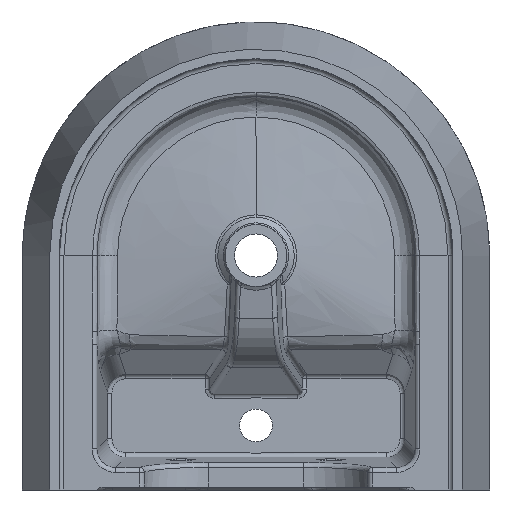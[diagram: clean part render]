
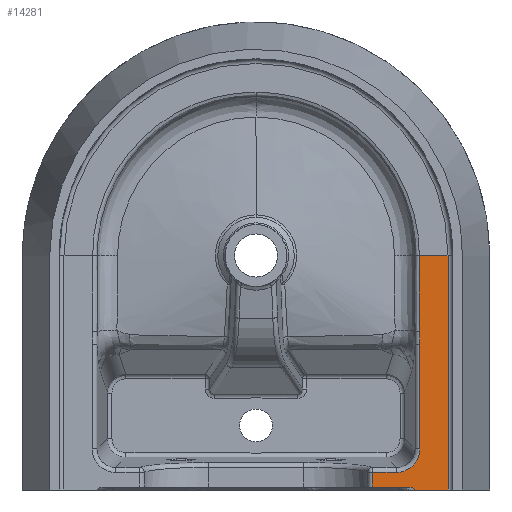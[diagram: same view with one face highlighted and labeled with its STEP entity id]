
A CAD part, front view. The second image highlights one B-rep face of the part: STEP entity #14281.
In plain terms, the highlighted planar face has unit normal (0, -1, 0).
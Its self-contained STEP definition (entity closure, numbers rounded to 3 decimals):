
#43 = EDGE_CURVE ( 'NONE', #14842, #15771, #1753, .T. ) ;
#699 = VECTOR ( 'NONE', #7197, 1000. ) ;
#1031 = CARTESIAN_POINT ( 'NONE',  ( 170., -145., -250. ) ) ;
#1102 = EDGE_CURVE ( 'NONE', #3269, #9192, #3864, .T. ) ;
#1420 = CARTESIAN_POINT ( 'NONE',  ( 174.223, -145., -67.517 ) ) ;
#1471 = EDGE_LOOP ( 'NONE', ( #5574, #7557, #4734, #12234, #10234, #2664, #3962, #6370, #8256, #8138, #7528, #8860 ) ) ;
#1678 = EDGE_CURVE ( 'NONE', #8139, #9175, #4360, .T. ) ;
#1753 = LINE ( 'NONE', #8885, #4999 ) ;
#1947 = VERTEX_POINT ( 'NONE', #15232 ) ;
#2231 = CARTESIAN_POINT ( 'NONE',  ( 204.725, -145., 0. ) ) ;
#2233 = VECTOR ( 'NONE', #10815, 1000. ) ;
#2405 = CARTESIAN_POINT ( 'NONE',  ( 208.921, -145., -231.144 ) ) ;
#2465 = VERTEX_POINT ( 'NONE', #5399 ) ;
#2510 = CARTESIAN_POINT ( 'NONE',  ( 208.921, -145., -247. ) ) ;
#2637 = CARTESIAN_POINT ( 'NONE',  ( 174.191, -145., -54.015 ) ) ;
#2664 = ORIENTED_EDGE ( 'NONE', *, *, #4876, .F. ) ;
#2686 = CARTESIAN_POINT ( 'NONE',  ( 204.725, -145., -250. ) ) ;
#3070 = CARTESIAN_POINT ( 'NONE',  ( 174.582, -145., -206.239 ) ) ;
#3269 = VERTEX_POINT ( 'NONE', #4923 ) ;
#3359 = LINE ( 'NONE', #2510, #6233 ) ;
#3459 = CARTESIAN_POINT ( 'NONE',  ( 162.831, -145., -247. ) ) ;
#3498 = VERTEX_POINT ( 'NONE', #2686 ) ;
#3852 = CARTESIAN_POINT ( 'NONE',  ( 174.19, -145., -43.887 ) ) ;
#3864 = LINE ( 'NONE', #2405, #13946 ) ;
#3913 = EDGE_CURVE ( 'NONE', #1947, #4623, #3359, .T. ) ;
#3938 = LINE ( 'NONE', #14474, #699 ) ;
#3962 = ORIENTED_EDGE ( 'NONE', *, *, #3913, .T. ) ;
#3985 = CARTESIAN_POINT ( 'NONE',  ( 174.193, -145., 0. ) ) ;
#4160 = EDGE_CURVE ( 'NONE', #14842, #3498, #15171, .T. ) ;
#4224 = B_SPLINE_CURVE_WITH_KNOTS ( 'NONE', 3,
 ( #7479, #8537, #1420, #9909, #2637, #11140, #3852, #12374, #5085, #13584 ),
 .UNSPECIFIED., .F., .F.,
 ( 4, 2, 2, 2, 4 ),
 ( 0., 0.02, 0.03, 0.041, 0.081 ),
 .UNSPECIFIED. ) ;
#4246 = CARTESIAN_POINT ( 'NONE',  ( 149.677, -145., -231.144 ) ) ;
#4360 = B_SPLINE_CURVE_WITH_KNOTS ( 'NONE', 3,
 ( #14272, #5761, #13051, #6996, #15503, #8215 ),
 .UNSPECIFIED., .F., .F.,
 ( 4, 2, 4 ),
 ( 0., 0.007, 0.014 ),
 .UNSPECIFIED. ) ;
#4432 = PLANE ( 'NONE',  #9476 ) ;
#4596 = EDGE_CURVE ( 'NONE', #2465, #4623, #15473, .T. ) ;
#4623 = VERTEX_POINT ( 'NONE', #8362 ) ;
#4633 = EDGE_CURVE ( 'NONE', #14996, #8139, #3938, .T. ) ;
#4734 = ORIENTED_EDGE ( 'NONE', *, *, #4633, .F. ) ;
#4876 = EDGE_CURVE ( 'NONE', #1947, #3269, #15347, .T. ) ;
#4923 = CARTESIAN_POINT ( 'NONE',  ( 124.203, -145., -231.144 ) ) ;
#4999 = VECTOR ( 'NONE', #12974, 1000. ) ;
#5085 = CARTESIAN_POINT ( 'NONE',  ( 174.191, -145., -13.506 ) ) ;
#5138 =( BOUNDED_CURVE ( )  B_SPLINE_CURVE ( 3, ( #4246, #10299, #10350, #3070 ),
 .UNSPECIFIED., .F., .F. ) 
 B_SPLINE_CURVE_WITH_KNOTS ( ( 4, 4 ),
 ( 2.36, 3.923 ),
 .UNSPECIFIED. ) 
 CURVE ( )  GEOMETRIC_REPRESENTATION_ITEM ( )  RATIONAL_B_SPLINE_CURVE ( ( 1., 0.807, 0.807, 1. ) ) 
 REPRESENTATION_ITEM ( '' )  );
#5399 = CARTESIAN_POINT ( 'NONE',  ( 170., -145., -250. ) ) ;
#5574 = ORIENTED_EDGE ( 'NONE', *, *, #13697, .F. ) ;
#5761 = CARTESIAN_POINT ( 'NONE',  ( 174.582, -145., -92.488 ) ) ;
#5979 = CARTESIAN_POINT ( 'NONE',  ( 204.725, -145., -250. ) ) ;
#6221 = EDGE_CURVE ( 'NONE', #3498, #2465, #14389, .T. ) ;
#6233 = VECTOR ( 'NONE', #9782, 1000. ) ;
#6370 = ORIENTED_EDGE ( 'NONE', *, *, #4596, .F. ) ;
#6436 = VERTEX_POINT ( 'NONE', #15377 ) ;
#6484 = CARTESIAN_POINT ( 'NONE',  ( 174.193, -145., 0. ) ) ;
#6791 = DIRECTION ( 'NONE',  ( 0., 0., 1. ) ) ;
#6878 = CARTESIAN_POINT ( 'NONE',  ( 208.921, -145., 0. ) ) ;
#6996 = CARTESIAN_POINT ( 'NONE',  ( 174.445, -145., -85.607 ) ) ;
#7127 = EDGE_CURVE ( 'NONE', #6436, #15771, #12834, .T. ) ;
#7197 = DIRECTION ( 'NONE',  ( 0., 0., 1. ) ) ;
#7479 = CARTESIAN_POINT ( 'NONE',  ( 174.372, -145., -81.019 ) ) ;
#7528 = ORIENTED_EDGE ( 'NONE', *, *, #43, .T. ) ;
#7557 = ORIENTED_EDGE ( 'NONE', *, *, #1678, .F. ) ;
#8101 = DIRECTION ( 'NONE',  ( 0., 0., 1. ) ) ;
#8138 = ORIENTED_EDGE ( 'NONE', *, *, #4160, .F. ) ;
#8139 = VERTEX_POINT ( 'NONE', #15055 ) ;
#8215 = CARTESIAN_POINT ( 'NONE',  ( 174.372, -145., -81.019 ) ) ;
#8256 = ORIENTED_EDGE ( 'NONE', *, *, #6221, .F. ) ;
#8362 = CARTESIAN_POINT ( 'NONE',  ( 162.831, -145., -247. ) ) ;
#8537 = CARTESIAN_POINT ( 'NONE',  ( 174.294, -145., -74.268 ) ) ;
#8860 = ORIENTED_EDGE ( 'NONE', *, *, #7127, .F. ) ;
#8885 = CARTESIAN_POINT ( 'NONE',  ( 208.921, -145., 0. ) ) ;
#9175 = VERTEX_POINT ( 'NONE', #15427 ) ;
#9192 = VERTEX_POINT ( 'NONE', #12000 ) ;
#9476 = AXIS2_PLACEMENT_3D ( 'NONE', #6878, #15381, #8101 ) ;
#9782 = DIRECTION ( 'NONE',  ( 1., 0., 0. ) ) ;
#9909 = CARTESIAN_POINT ( 'NONE',  ( 174.188, -145., -57.39 ) ) ;
#10012 = DIRECTION ( 'NONE',  ( -1., 0., 0. ) ) ;
#10089 = CARTESIAN_POINT ( 'NONE',  ( 174.193, -145., -0.002 ) ) ;
#10234 = ORIENTED_EDGE ( 'NONE', *, *, #1102, .F. ) ;
#10299 = CARTESIAN_POINT ( 'NONE',  ( 164.289, -145., -231.144 ) ) ;
#10350 = CARTESIAN_POINT ( 'NONE',  ( 174.582, -145., -220.851 ) ) ;
#10748 = CARTESIAN_POINT ( 'NONE',  ( 165.566, -145., -247. ) ) ;
#10815 = DIRECTION ( 'NONE',  ( 0., 0., -1. ) ) ;
#10899 = DIRECTION ( 'NONE',  ( 1., 0., 0. ) ) ;
#11140 = CARTESIAN_POINT ( 'NONE',  ( 174.19, -145., -47.263 ) ) ;
#12000 = CARTESIAN_POINT ( 'NONE',  ( 149.677, -145., -231.144 ) ) ;
#12120 = CARTESIAN_POINT ( 'NONE',  ( 174.582, -145., -206.239 ) ) ;
#12234 = ORIENTED_EDGE ( 'NONE', *, *, #12318, .F. ) ;
#12318 = EDGE_CURVE ( 'NONE', #9192, #14996, #5138, .T. ) ;
#12374 = CARTESIAN_POINT ( 'NONE',  ( 174.19, -145., -27.009 ) ) ;
#12415 = FACE_OUTER_BOUND ( 'NONE', #1471, .T. ) ;
#12834 = B_SPLINE_CURVE_WITH_KNOTS ( 'NONE', 3,
 ( #14942, #10089, #13759, #6484 ),
 .UNSPECIFIED., .F., .F.,
 ( 4, 4 ),
 ( 0., 0. ),
 .UNSPECIFIED. ) ;
#12878 = VECTOR ( 'NONE', #6791, 1000. ) ;
#12974 = DIRECTION ( 'NONE',  ( -1., 0., 0. ) ) ;
#13051 = CARTESIAN_POINT ( 'NONE',  ( 174.537, -145., -90.194 ) ) ;
#13584 = CARTESIAN_POINT ( 'NONE',  ( 174.193, -145., -0.003 ) ) ;
#13627 = VECTOR ( 'NONE', #10012, 1000. ) ;
#13685 = CARTESIAN_POINT ( 'NONE',  ( 250., -145., -250. ) ) ;
#13697 = EDGE_CURVE ( 'NONE', #9175, #6436, #4224, .T. ) ;
#13759 = CARTESIAN_POINT ( 'NONE',  ( 174.193, -145., -0.001 ) ) ;
#13946 = VECTOR ( 'NONE', #10899, 1000. ) ;
#14070 = CARTESIAN_POINT ( 'NONE',  ( 124.203, -145., 0. ) ) ;
#14272 = CARTESIAN_POINT ( 'NONE',  ( 174.582, -145., -94.783 ) ) ;
#14281 = ADVANCED_FACE ( 'NONE', ( #12415 ), #4432, .F. ) ;
#14389 = LINE ( 'NONE', #13685, #13627 ) ;
#14474 = CARTESIAN_POINT ( 'NONE',  ( 174.582, -145., 0. ) ) ;
#14842 = VERTEX_POINT ( 'NONE', #2231 ) ;
#14942 = CARTESIAN_POINT ( 'NONE',  ( 174.193, -145., -0.003 ) ) ;
#14996 = VERTEX_POINT ( 'NONE', #12120 ) ;
#15055 = CARTESIAN_POINT ( 'NONE',  ( 174.582, -145., -94.783 ) ) ;
#15129 = CARTESIAN_POINT ( 'NONE',  ( 168.086, -145., -248.055 ) ) ;
#15171 = LINE ( 'NONE', #5979, #2233 ) ;
#15232 = CARTESIAN_POINT ( 'NONE',  ( 124.203, -145., -247. ) ) ;
#15347 = LINE ( 'NONE', #14070, #12878 ) ;
#15377 = CARTESIAN_POINT ( 'NONE',  ( 174.193, -145., -0.003 ) ) ;
#15381 = DIRECTION ( 'NONE',  ( 0., 1., 0. ) ) ;
#15427 = CARTESIAN_POINT ( 'NONE',  ( 174.372, -145., -81.019 ) ) ;
#15473 =( BOUNDED_CURVE ( )  B_SPLINE_CURVE ( 3, ( #1031, #15129, #10748, #3459 ),
 .UNSPECIFIED., .F., .F. ) 
 B_SPLINE_CURVE_WITH_KNOTS ( ( 4, 4 ),
 ( 0.775, 1.571 ),
 .UNSPECIFIED. ) 
 CURVE ( )  GEOMETRIC_REPRESENTATION_ITEM ( )  RATIONAL_B_SPLINE_CURVE ( ( 1., 0.948, 0.948, 1. ) ) 
 REPRESENTATION_ITEM ( '' )  );
#15503 = CARTESIAN_POINT ( 'NONE',  ( 174.398, -145., -83.313 ) ) ;
#15771 = VERTEX_POINT ( 'NONE', #3985 ) ;
